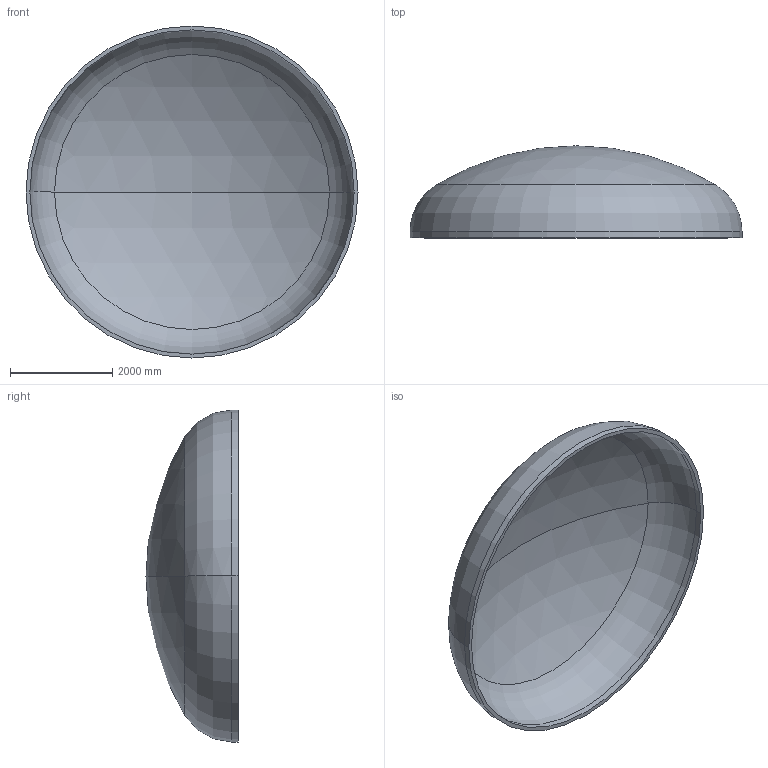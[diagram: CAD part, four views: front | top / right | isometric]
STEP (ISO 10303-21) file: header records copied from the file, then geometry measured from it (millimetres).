
FILE_DESCRIPTION (( 'STEP AP203' ), '1' );
FILE_NAME ('DIN 28013 Korbbogenform_-_Boden DIN 28013 - 6500 x 120 - I - s=76.step', '2016-07-04T10:43:13', ( '' ), ( '' ), 'SwSTEP 2.0', 'SolidWorks 2013', '' );
FILE_SCHEMA (( 'CONFIG_CONTROL_DESIGN' ));
Length unit declared in the file: millimetre
Products named in the file (1): DIN 28013 Korbbogenform_-_Boden DIN 28013 - 6500 x 120 - I - s=76
Bounding box: 6500 x 1802.43 x 6500 mm (x, y, z)
Volume: 3622610141.6 mm3; surface area: 96877707.8 mm2
Topology: 1 solids, 1 shells, 13 faces, 24 edges, 14 vertices
Faces by surface type: torus 4, cylinder 4, sphere 4, plane 1
Entity records: 407 total; most frequent: DIRECTION 72, CARTESIAN_POINT 52, ORIENTED_EDGE 48, AXIS2_PLACEMENT_3D 34, EDGE_CURVE 24, CIRCLE 20, EDGE_LOOP 14, VERTEX_POINT 14
